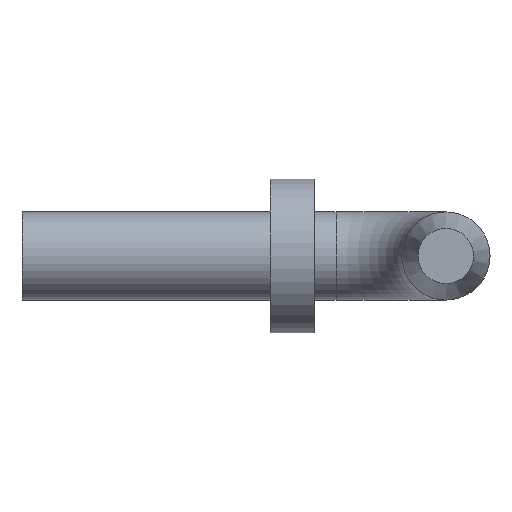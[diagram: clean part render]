
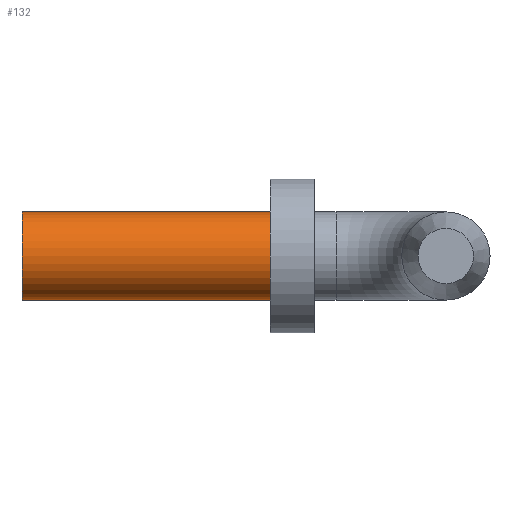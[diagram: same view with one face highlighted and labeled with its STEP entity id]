
A CAD part, front view. The second image highlights one B-rep face of the part: STEP entity #132.
In plain terms, the highlighted cylindrical face has radius 0.51 mm (diameter 1.02 mm), a full revolution.
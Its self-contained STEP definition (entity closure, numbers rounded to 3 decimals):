
#21=CYLINDRICAL_SURFACE($,#155,0.51);
#30=FACE_BOUND($,#60,.T.);
#42=FACE_OUTER_BOUND($,#59,.T.);
#59=EDGE_LOOP($,(#114));
#60=EDGE_LOOP($,(#115));
#74=CIRCLE($,#154,0.51);
#75=CIRCLE($,#156,0.51);
#85=VERTEX_POINT($,#233);
#86=VERTEX_POINT($,#236);
#96=EDGE_CURVE($,#85,#85,#74,.T.);
#97=EDGE_CURVE($,#86,#86,#75,.T.);
#114=ORIENTED_EDGE($,*,*,#97,.F.);
#115=ORIENTED_EDGE($,*,*,#96,.T.);
#132=ADVANCED_FACE($,(#42,#30),#21,.T.);
#154=AXIS2_PLACEMENT_3D($,#234,#194,#195);
#155=AXIS2_PLACEMENT_3D($,#235,#196,#197);
#156=AXIS2_PLACEMENT_3D($,#237,#198,#199);
#194=DIRECTION('center_axis',(1.,0.,0.));
#195=DIRECTION('ref_axis',(0.,1.,0.));
#196=DIRECTION('center_axis',(1.,0.,0.));
#197=DIRECTION('ref_axis',(0.,1.,0.));
#198=DIRECTION('center_axis',(1.,0.,0.));
#199=DIRECTION('ref_axis',(0.,1.,0.));
#233=CARTESIAN_POINT('',(-3.378,0.51,0.));
#234=CARTESIAN_POINT('Origin',(-3.378,0.,0.));
#235=CARTESIAN_POINT('Origin',(-1.943,0.,0.));
#236=CARTESIAN_POINT('',(-0.508,0.51,0.));
#237=CARTESIAN_POINT('Origin',(-0.508,0.,
0.));
